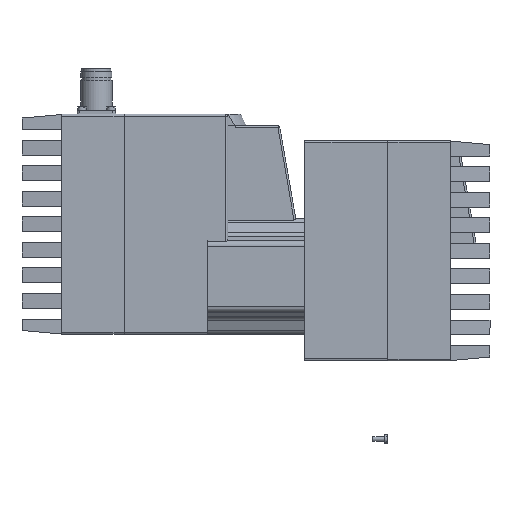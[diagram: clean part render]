
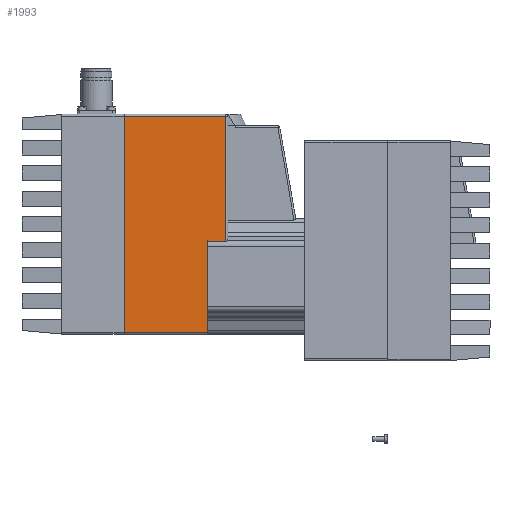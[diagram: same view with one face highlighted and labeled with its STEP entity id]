
A CAD part, left-side view. The second image highlights one B-rep face of the part: STEP entity #1993.
In plain terms, the highlighted planar face has unit normal (-1, 0, 0).
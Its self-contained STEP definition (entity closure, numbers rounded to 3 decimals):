
#1993 = ADVANCED_FACE( '', ( #4289 ), #4290, .T. );
#4289 = FACE_OUTER_BOUND( '', #6968, .T. );
#4290 = PLANE( '', #6969 );
#6968 = EDGE_LOOP( '', ( #12531, #12532, #12533, #12534, #12535, #12536 ) );
#6969 = AXIS2_PLACEMENT_3D( '', #12537, #12538, #12539 );
#12531 = ORIENTED_EDGE( '', *, *, #13726, .T. );
#12532 = ORIENTED_EDGE( '', *, *, #14479, .T. );
#12533 = ORIENTED_EDGE( '', *, *, #15270, .F. );
#12534 = ORIENTED_EDGE( '', *, *, #13915, .F. );
#12535 = ORIENTED_EDGE( '', *, *, #14631, .T. );
#12536 = ORIENTED_EDGE( '', *, *, #13430, .T. );
#12537 = CARTESIAN_POINT( '', ( 0.001, 43., 0.646 ) );
#12538 = DIRECTION( '', ( -1., 0., 0. ) );
#12539 = DIRECTION( '', ( 0., 0., 1. ) );
#13430 = EDGE_CURVE( '', #15754, #15755, #15756, .F. );
#13726 = EDGE_CURVE( '', #15755, #16282, #16284, .T. );
#13915 = EDGE_CURVE( '', #16605, #16607, #16608, .T. );
#14479 = EDGE_CURVE( '', #16282, #17516, #17518, .T. );
#14631 = EDGE_CURVE( '', #16605, #15754, #17750, .F. );
#15270 = EDGE_CURVE( '', #16607, #17516, #18638, .T. );
#15754 = VERTEX_POINT( '', #19189 );
#15755 = VERTEX_POINT( '', #19190 );
#15756 = LINE( '', #19191, #19192 );
#16282 = VERTEX_POINT( '', #20000 );
#16284 = LINE( '', #20002, #20003 );
#16605 = VERTEX_POINT( '', #20437 );
#16607 = VERTEX_POINT( '', #20448 );
#16608 = LINE( '', #20449, #20450 );
#17516 = VERTEX_POINT( '', #21758 );
#17518 = LINE( '', #21760, #21761 );
#17750 = LINE( '', #22063, #22064 );
#18638 = LINE( '', #23380, #23381 );
#19189 = CARTESIAN_POINT( '', ( 0.001, -9.7, 113.646 ) );
#19190 = CARTESIAN_POINT( '', ( 0.001, 43., 113.646 ) );
#19191 = CARTESIAN_POINT( '', ( 0.001, 43., 113.646 ) );
#19192 = VECTOR( '', #24094, 1000. );
#20000 = CARTESIAN_POINT( '', ( 0.001, 43., 1.646 ) );
#20002 = CARTESIAN_POINT( '', ( 0.001, 43., 114.646 ) );
#20003 = VECTOR( '', #24453, 1000. );
#20437 = CARTESIAN_POINT( '', ( 0.001, -9.7, 48.864 ) );
#20448 = CARTESIAN_POINT( '', ( 0.001, 0., 48.864 ) );
#20449 = CARTESIAN_POINT( '', ( 0.001, -5.35, 48.864 ) );
#20450 = VECTOR( '', #24701, 1000. );
#21758 = CARTESIAN_POINT( '', ( 0.001, 0., 1.646 ) );
#21760 = CARTESIAN_POINT( '', ( 0.001, 43., 1.646 ) );
#21761 = VECTOR( '', #25353, 1000. );
#22063 = CARTESIAN_POINT( '', ( 0.001, -9.7, 0.646 ) );
#22064 = VECTOR( '', #25553, 1000. );
#23380 = CARTESIAN_POINT( '', ( 0.001, 0., 0.646 ) );
#23381 = VECTOR( '', #26175, 1000. );
#24094 = DIRECTION( '', ( 0., -1., 0. ) );
#24453 = DIRECTION( '', ( 0., 0., -1. ) );
#24701 = DIRECTION( '', ( 0., 1., 0. ) );
#25353 = DIRECTION( '', ( 0., -1., 0. ) );
#25553 = DIRECTION( '', ( 0., 0., -1. ) );
#26175 = DIRECTION( '', ( 0., 0., -1. ) );
